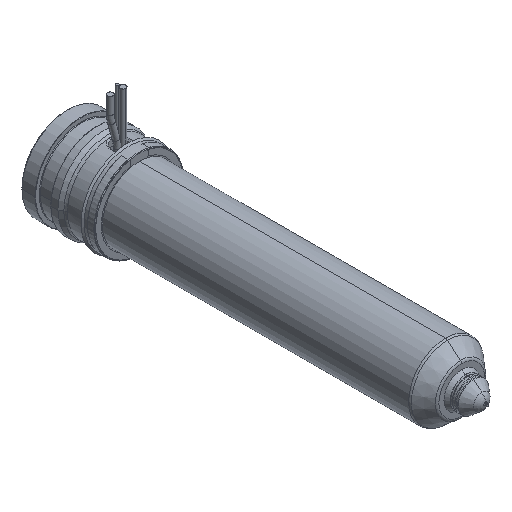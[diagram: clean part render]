
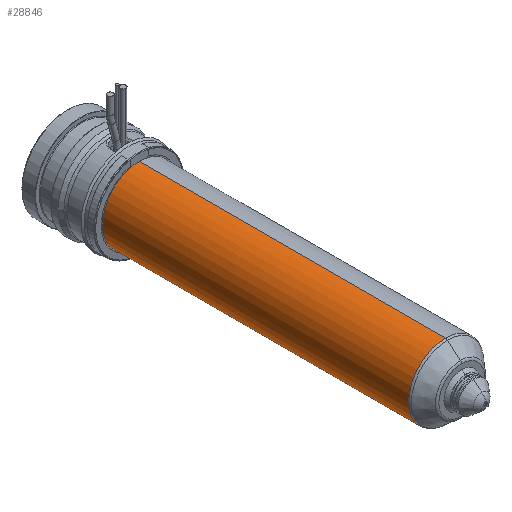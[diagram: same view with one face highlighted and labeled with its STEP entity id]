
A CAD part, isometric view. The second image highlights one B-rep face of the part: STEP entity #28846.
In plain terms, the highlighted cylindrical face has radius 12 mm (diameter 24 mm), a partial arc.
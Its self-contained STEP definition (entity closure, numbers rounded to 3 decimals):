
#28237=CARTESIAN_POINT('',(0.,-123.736,0.));
#28238=DIRECTION('',(0.,-1.,0.));
#28239=DIRECTION('',(0.,0.,1.));
#28240=AXIS2_PLACEMENT_3D('',#28237,#28238,#28239);
#28245=CARTESIAN_POINT('',(0.,-24.,0.));
#28246=DIRECTION('',(0.,1.,0.));
#28247=DIRECTION('',(0.,0.,-1.));
#28248=AXIS2_PLACEMENT_3D('',#28245,#28246,#28247);
#28253=DIRECTION('',(0.,1.,0.));
#28254=VECTOR('',#28253,99.736);
#28255=CARTESIAN_POINT('',(0.,-123.736,12.));
#28256=LINE('',#28255,#28254);
#28268=DIRECTION('',(0.,1.,0.));
#28269=VECTOR('',#28268,99.736);
#28270=CARTESIAN_POINT('',(0.,-123.736,-12.));
#28271=LINE('',#28270,#28269);
#28451=CARTESIAN_POINT('',(0.,-123.736,12.));
#28452=CARTESIAN_POINT('',(0.,-24.,12.));
#28453=VERTEX_POINT('',#28451);
#28454=VERTEX_POINT('',#28452);
#28455=CARTESIAN_POINT('',(0.,-123.736,-12.));
#28456=CARTESIAN_POINT('',(0.,-24.,-12.));
#28457=VERTEX_POINT('',#28455);
#28458=VERTEX_POINT('',#28456);
#28832=CARTESIAN_POINT('',(0.,-14.125,0.));
#28833=DIRECTION('',(0.,-1.,0.));
#28834=DIRECTION('',(0.,0.,1.));
#28835=AXIS2_PLACEMENT_3D('',#28832,#28833,#28834);
#28836=CYLINDRICAL_SURFACE('',#28835,12.);
#28838=ORIENTED_EDGE('',*,*,#28837,.F.);
#28839=ORIENTED_EDGE('',*,*,#28827,.T.);
#28841=ORIENTED_EDGE('',*,*,#28840,.T.);
#28843=ORIENTED_EDGE('',*,*,#28842,.T.);
#28844=EDGE_LOOP('',(#28838,#28839,#28841,#28843));
#28845=FACE_OUTER_BOUND('',#28844,.F.);
#28846=ADVANCED_FACE('',(#28845),#28836,.T.);
#28241=CIRCLE('',#28240,12.);
#28249=CIRCLE('',#28248,12.);
#28827=EDGE_CURVE('',#28453,#28457,#28241,.T.);
#28837=EDGE_CURVE('',#28453,#28454,#28256,.T.);
#28840=EDGE_CURVE('',#28457,#28458,#28271,.T.);
#28842=EDGE_CURVE('',#28458,#28454,#28249,.T.);
